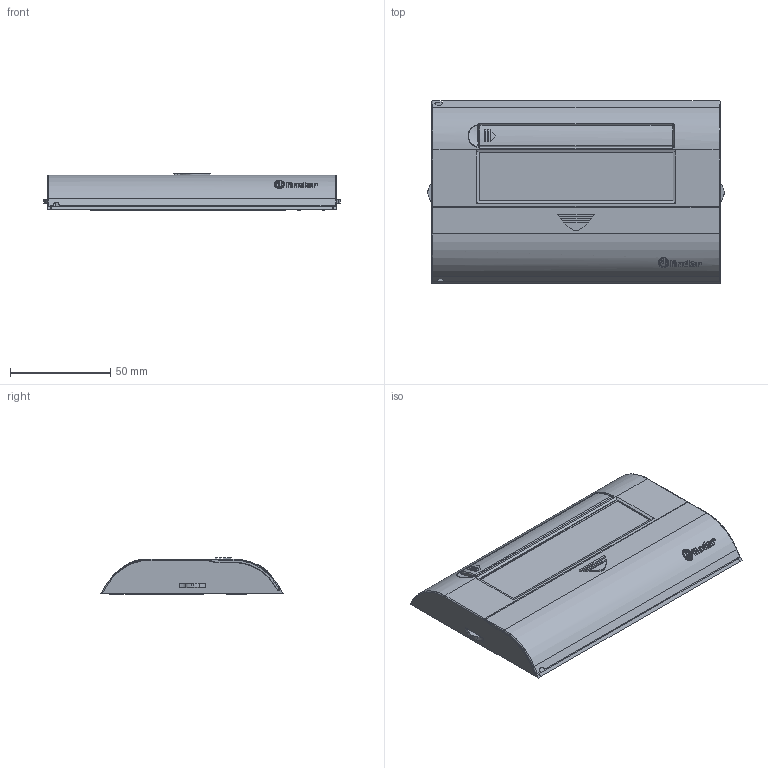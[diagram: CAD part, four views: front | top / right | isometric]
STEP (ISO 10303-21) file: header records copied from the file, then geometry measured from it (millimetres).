
FILE_DESCRIPTION(('STEP AP214'),'2;1');
FILE_NAME('1C61.stp','2013-07-16T16:39:29',(''),(''),'2007.1.106','THINKDESIGN','');
FILE_SCHEMA(('AUTOMOTIVE_DESIGN'));
Length unit declared in the file: millimetre
Products named in the file (1): top
Bounding box: 148 x 91 x 18.3 mm (x, y, z)
Surface area: 47524 mm2 (no closed solid volume)
Topology: 0 solids, 0 shells, 416 faces, 2402 edges, 2399 vertices
Faces by surface type: plane 276, cylinder 87, bspline 53
Full cylindrical faces by diameter (mm): 10 x1
Entity records: 24270 total; most frequent: CARTESIAN_POINT 11157, DIRECTION 2792, COMPOSITE_CURVE_SEGMENT 2403, TRIMMED_CURVE 1866, VECTOR 1668, LINE 1668, AXIS2_PLACEMENT_3D 562, OUTER_BOUNDARY_CURVE 416
